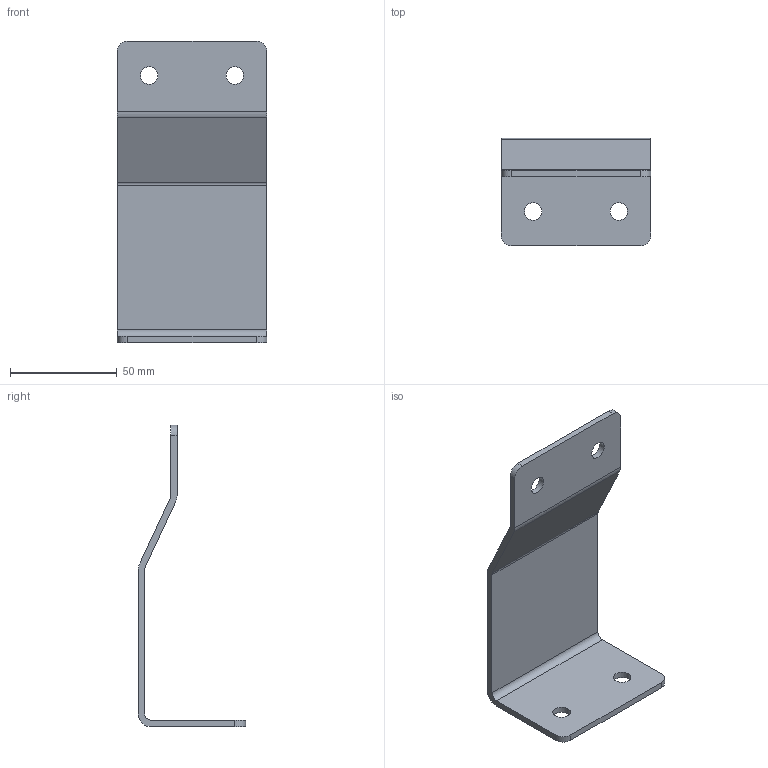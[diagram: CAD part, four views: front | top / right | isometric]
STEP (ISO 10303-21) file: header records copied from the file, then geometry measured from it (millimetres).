
FILE_DESCRIPTION(/* description */ ('BEAM SUPPORT 80x80 UNIVERSAL'),/* implementation_level */ '2;1');
FILE_NAME(/* name */ '500-1240.stp',/* time_stamp */ '2022-09-16T08:27:06+02:00',/* author */ ('PL'),/* organization */ ('CARRYLINE'),/* preprocessor_version */ 'ST-DEVELOPER v19.2',/* originating_system */ 'Autodesk Inventor 2023',/* authorisation */ '');
FILE_SCHEMA (('AUTOMOTIVE_DESIGN { 1 0 10303 214 3 1 1 }'));
Length unit declared in the file: millimetre
Products named in the file (1): 500-1240
Bounding box: 70 x 50.11 x 140.98 mm (x, y, z)
Volume: 39084.3 mm3; surface area: 27896.2 mm2
Topology: 1 solids, 1 shells, 26 faces, 72 edges, 48 vertices
Faces by surface type: cylinder 14, plane 12
Full cylindrical faces by diameter (mm): 8.2 x4
Entity records: 903 total; most frequent: DIRECTION 154, CARTESIAN_POINT 147, ORIENTED_EDGE 144, EDGE_CURVE 72, AXIS2_PLACEMENT_3D 55, VERTEX_POINT 48, LINE 44, VECTOR 44
